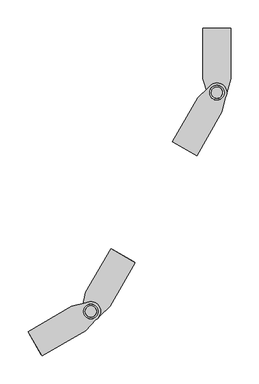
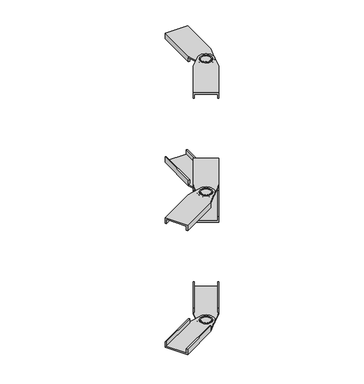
"""IFC4 building model written with IfcOpenShell, lengths in millimetres: cable carrier fitting geometry, BAKS_LD_BEND_Adjustable vertical bend_LPD : LPDP_H45."""

from ifc_helpers import new_model, si_unit, frame, origin, place, context, project, spatial, polyline, circle_curve, source, transform, mapped, element, save
from ifc_brep_helpers import plane_surface, cylinder_surface, revolved_surface, advanced_brep


def cable_carrier_fitting_92366696(model_context):
    return source(origin(), model_context, "Body", "AdvancedBrep", [
        advanced_brep(
        [(-79.1506351, 527.6185103, -153.0), (-34.1506351, 605.5607966, -153.0), (-15.1554446, 623.4614317, -153.0), (15.1554446, 605.9614317, -153.0), (9.1506351, 580.5607966, -153.0), (-35.8493649, 502.6185103, -153.0), (6.5, 625.969762, -153.0), (-6.5, 603.4531015, -153.0), (9.1506351, 580.5607966, -150.0), (15.1554446, 605.9614317, -150.0), (-15.1554446, 623.4614317, -150.0), (-34.1506351, 605.5607966, -150.0), (-31.9855716, 604.3107966, -150.0), (-76.9855716, 526.3685103, -150.0), (-38.0144284, 503.8685103, -150.0), (6.9855716, 581.8107966, -150.0), (-6.5, 603.4531015, -150.0), (6.5, 625.969762, -150.0), (-79.1506351, 527.6185103, -140.0), (-34.1506351, 605.5607966, -140.0), (9.1506351, 580.5607966, -140.0), (-35.8493649, 502.6185103, -140.0), (-38.0144284, 503.8685103, -140.0), (-76.9855716, 526.3685103, -140.0), (6.9855716, 581.8107966, -140.0), (-31.9855716, 604.3107966, -140.0)],
        [
            (0, 1),
            (1, 2),
            (2, 3, circle_curve(frame((0.0, 614.7114317, -153.0), z_axis=(0.0, 0.0, -1.0), x_axis=(-0.49999999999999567, -0.8660254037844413, 0.0)), 17.5)),
            (3, 4),
            (4, 5),
            (5, 0),
            (6, 7, circle_curve(frame((0.0, 614.7114317, -153.0), z_axis=(0.0, 0.0, 1.0), x_axis=(-0.49999999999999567, -0.8660254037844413, 0.0)), 13.0)),
            (7, 6, circle_curve(frame((0.0, 614.7114317, -153.0), z_axis=(0.0, 0.0, 1.0), x_axis=(-0.49999999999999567, -0.8660254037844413, 0.0)), 13.0)),
            (8, 9),
            (9, 10, circle_curve(frame((0.0, 614.7114317, -150.0), z_axis=(0.0, 0.0, 1.0), x_axis=(-0.49999999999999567, -0.8660254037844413, 0.0)), 17.5)),
            (10, 11),
            (11, 12),
            (12, 13),
            (13, 14),
            (14, 15),
            (15, 8),
            (16, 17, circle_curve(frame((0.0, 614.7114317, -150.0), z_axis=(0.0, 0.0, -1.0), x_axis=(-0.49999999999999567, -0.8660254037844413, 0.0)), 13.0)),
            (17, 16, circle_curve(frame((0.0, 614.7114317, -150.0), z_axis=(0.0, 0.0, -1.0), x_axis=(-0.49999999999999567, -0.8660254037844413, 0.0)), 13.0)),
            (0, 18),
            (18, 19),
            (19, 11),
            (11, 1),
            (4, 8),
            (8, 20),
            (20, 21),
            (21, 5),
            (21, 22),
            (22, 14),
            (13, 23),
            (23, 18),
            (6, 17),
            (16, 7),
            (10, 2),
            (9, 3),
            (20, 24),
            (24, 22),
            (24, 15),
            (23, 25),
            (25, 19),
            (25, 12),
        ],
        [
            plane_surface(frame((-34.1506351, 605.5607966, -153.0), z_axis=(0.0, 0.0, -1.0000000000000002), x_axis=(0.49999999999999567, 0.8660254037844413, 0.0))),
            plane_surface(frame((-34.1506351, 605.5607966, -150.0), z_axis=(0.0, 0.0, 1.0000000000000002), x_axis=(-0.49999999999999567, -0.8660254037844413, 0.0))),
            plane_surface(frame((-79.1506351, 527.6185103, -153.0), z_axis=(-0.8660254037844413, 0.49999999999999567, 0.0), x_axis=(0.0, 0.0, 1.0))),
            plane_surface(frame((9.1506351, 580.5607966, -153.0), z_axis=(0.8660254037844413, -0.49999999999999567, 0.0), x_axis=(0.0, 0.0, 1.0))),
            plane_surface(frame((-35.8493649, 502.6185103, -153.0), z_axis=(-0.49999999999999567, -0.8660254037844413, 0.0), x_axis=(0.0, 0.0, 1.0))),
            revolved_surface(polyline([(-6.499999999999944, 603.4531014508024, -153.0), (-6.499999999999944, 603.4531014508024, -150.0)]), (0.0, 614.7114317, -150.0), (0.0, 0.0, -1.0)),
            plane_surface(frame((-34.1506351, 605.5607966, -153.0), z_axis=(-0.685827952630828, 0.7277637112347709, 0.0), x_axis=(0.0, 0.0, 1.0))),
            cylinder_surface(frame((0.0, 614.7114317, -150.0), z_axis=(0.0, 0.0, -1.0), x_axis=(-0.49999999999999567, -0.8660254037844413, 0.0)), 17.5),
            plane_surface(frame((15.1554446, 605.9614317, -153.0), z_axis=(0.9731758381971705, -0.23006257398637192, 0.0), x_axis=(0.0, 0.0, 1.0))),
            plane_surface(frame((6.9855716, 581.8107966, -140.0), z_axis=(0.0, 0.0, 1.0000000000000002), x_axis=(-0.49999999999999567, -0.8660254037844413, 0.0))),
            plane_surface(frame((-38.0144284, 503.8685103, -150.0), z_axis=(-0.8660254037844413, 0.49999999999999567, 0.0), x_axis=(0.0, 0.0, 1.0))),
            plane_surface(frame((6.9855716, 581.8107966, -150.0), z_axis=(0.49999999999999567, 0.8660254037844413, 0.0), x_axis=(0.0, 0.0, 1.0))),
            plane_surface(frame((-34.1506351, 605.5607966, -140.0), z_axis=(0.0, 0.0, 1.0000000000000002), x_axis=(-0.49999999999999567, -0.8660254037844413, 0.0))),
            plane_surface(frame((-34.1506351, 605.5607966, -150.0), z_axis=(0.49999999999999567, 0.8660254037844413, 0.0), x_axis=(0.0, 0.0, 1.0))),
            plane_surface(frame((-31.9855716, 604.3107966, -150.0), z_axis=(0.8660254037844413, -0.49999999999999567, 0.0), x_axis=(0.0, 0.0, 1.0))),
        ],
        [
            (0, [[1, 2, 3, 4, 5, 6], [7, 8]]),
            (1, [[9, 10, 11, 12, 13, 14, 15, 16], [17, 18]]),
            (2, [[-1, 19, 20, 21, 22]]),
            (3, [[-5, 23, 24, 25, 26]]),
            (4, [[-19, -6, -26, 27, 28, -14, 29, 30]]),
            (5, [[31, -17, 32, -7]]),
            (5, [[-31, -8, -32, -18]]),
            (6, [[-2, -22, -11, 33]]),
            (7, [[-3, -33, -10, 34]]),
            (8, [[-4, -34, -9, -23]]),
            (9, [[-27, -25, 35, 36]]),
            (10, [[-36, 37, -15, -28]]),
            (11, [[-35, -24, -16, -37]]),
            (12, [[-30, 38, 39, -20]]),
            (13, [[-39, 40, -12, -21]]),
            (14, [[-38, -29, -13, -40]]),
        ],
    ),
        advanced_brep(
        [(5.0, 623.3716857, -153.0), (-5.0, 606.0511777, -153.0), (-5.0, 606.0511777, -150.0), (5.0, 623.3716857, -150.0)],
        [
            (0, 1, circle_curve(frame((0.0, 614.7114317, -153.0), z_axis=(0.0, 0.0, -1.0), x_axis=(-0.49999999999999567, -0.8660254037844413, 0.0)), 10.0)),
            (1, 0, circle_curve(frame((0.0, 614.7114317, -153.0), z_axis=(0.0, 0.0, -1.0), x_axis=(-0.49999999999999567, -0.8660254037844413, 0.0)), 10.0)),
            (2, 3, circle_curve(frame((0.0, 614.7114317, -150.0), z_axis=(0.0, 0.0, 1.0), x_axis=(-0.49999999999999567, -0.8660254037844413, 0.0)), 10.0)),
            (3, 2, circle_curve(frame((0.0, 614.7114317, -150.0), z_axis=(0.0, 0.0, 1.0), x_axis=(-0.49999999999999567, -0.8660254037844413, 0.0)), 10.0)),
            (0, 3),
            (2, 1),
        ],
        [
            plane_surface(frame((-34.1506351, 605.5607966, -153.0), z_axis=(0.0, 0.0, -1.0000000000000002), x_axis=(0.49999999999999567, 0.8660254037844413, 0.0))),
            plane_surface(frame((-34.1506351, 605.5607966, -150.0), z_axis=(0.0, 0.0, 1.0000000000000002), x_axis=(-0.49999999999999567, -0.8660254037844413, 0.0))),
            cylinder_surface(frame((0.0, 614.7114317, -150.0), z_axis=(0.0, 0.0, 1.0), x_axis=(-0.49999999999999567, -0.8660254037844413, 0.0)), 10.0),
        ],
        [
            (0, [[1, 2]]),
            (1, [[3, 4]]),
            (2, [[5, -3, 6, -1]]),
            (2, [[-5, -2, -6, -4]]),
        ],
    ),
        advanced_brep(
        [(-25.0, 729.7114317, -153.0), (25.0, 729.7114317, -153.0), (25.0, 639.7114317, -153.0), (17.5, 614.7114317, -153.0), (-17.5, 614.7114317, -153.0), (-25.0, 639.7114317, -153.0), (0.0, 601.7114317, -153.0), (0.0, 627.7114317, -153.0), (25.0, 639.7114317, -150.0), (22.5, 639.7114317, -150.0), (22.5, 729.7114317, -150.0), (-22.5, 729.7114317, -150.0), (-22.5, 639.7114317, -150.0), (-25.0, 639.7114317, -150.0), (-17.5, 614.7114317, -150.0), (17.5, 614.7114317, -150.0), (0.0, 627.7114317, -150.0), (0.0, 601.7114317, -150.0), (-25.0, 639.7114317, -140.0), (-25.0, 729.7114317, -140.0), (25.0, 729.7114317, -140.0), (25.0, 639.7114317, -140.0), (-22.5, 729.7114317, -140.0), (22.5, 729.7114317, -140.0), (22.5, 639.7114317, -140.0), (-22.5, 639.7114317, -140.0)],
        [
            (0, 1),
            (1, 2),
            (2, 3),
            (3, 4, circle_curve(frame((0.0, 614.7114317, -153.0), z_axis=(0.0, 0.0, -1.0), x_axis=(0.0, 1.0000000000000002, 0.0)), 17.5)),
            (4, 5),
            (5, 0),
            (6, 7, circle_curve(frame((0.0, 614.7114317, -153.0), z_axis=(0.0, 0.0, 1.0), x_axis=(0.0, 1.0000000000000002, 0.0)), 13.0)),
            (7, 6, circle_curve(frame((0.0, 614.7114317, -153.0), z_axis=(0.0, 0.0, 1.0), x_axis=(0.0, 1.0000000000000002, 0.0)), 13.0)),
            (8, 9),
            (9, 10),
            (10, 11),
            (11, 12),
            (12, 13),
            (13, 14),
            (14, 15, circle_curve(frame((0.0, 614.7114317, -150.0), z_axis=(0.0, 0.0, 1.0), x_axis=(0.0, 1.0000000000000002, 0.0)), 17.5)),
            (15, 8),
            (16, 17, circle_curve(frame((0.0, 614.7114317, -150.0), z_axis=(0.0, 0.0, -1.0), x_axis=(0.0, 1.0000000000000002, 0.0)), 13.0)),
            (17, 16, circle_curve(frame((0.0, 614.7114317, -150.0), z_axis=(0.0, 0.0, -1.0), x_axis=(0.0, 1.0000000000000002, 0.0)), 13.0)),
            (5, 13),
            (13, 18),
            (18, 19),
            (19, 0),
            (1, 20),
            (20, 21),
            (21, 8),
            (8, 2),
            (19, 22),
            (22, 11),
            (10, 23),
            (23, 20),
            (7, 16),
            (17, 6),
            (4, 14),
            (3, 15),
            (23, 24),
            (24, 21),
            (9, 24),
            (18, 25),
            (25, 22),
            (12, 25),
        ],
        [
            plane_surface(frame((-25.0, 639.7114317, -153.0), z_axis=(0.0, 0.0, -1.0), x_axis=(0.0, -1.0, 0.0))),
            plane_surface(frame((-25.0, 639.7114317, -150.0), z_axis=(0.0, 0.0, 1.0), x_axis=(0.0, 1.0, 0.0))),
            plane_surface(frame((-25.0, 729.7114317, -153.0), z_axis=(-1.0, 0.0, 0.0), x_axis=(0.0, 0.0, 1.0))),
            plane_surface(frame((25.0, 639.7114317, -153.0), z_axis=(1.0, 0.0, 0.0), x_axis=(0.0, 0.0, 1.0))),
            plane_surface(frame((25.0, 729.7114317, -153.0), z_axis=(0.0, 1.0, 0.0), x_axis=(0.0, 0.0, 1.0))),
            revolved_surface(polyline([(0.0, 627.7114317, -153.0), (0.0, 627.7114317, -150.0)]), (0.0, 614.7114317, -150.0), (0.0, 0.0, -1.0)),
            plane_surface(frame((-25.0, 639.7114317, -153.0), z_axis=(-0.957826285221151, -0.2873478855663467, 0.0), x_axis=(0.0, 0.0, 1.0))),
            cylinder_surface(frame((0.0, 614.7114317, -150.0), z_axis=(0.0, 0.0, -1.0), x_axis=(0.0, 1.0000000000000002, 0.0)), 17.5),
            plane_surface(frame((17.5, 614.7114317, -153.0), z_axis=(0.9578262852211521, -0.28734788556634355, 0.0), x_axis=(0.0, 0.0, 1.0))),
            plane_surface(frame((22.5, 639.7114317, -140.0), z_axis=(0.0, 0.0, 1.0), x_axis=(0.0, 1.0, 0.0))),
            plane_surface(frame((22.5, 729.7114317, -150.0), z_axis=(-1.0, 0.0, 0.0), x_axis=(0.0, 0.0, 1.0))),
            plane_surface(frame((22.5, 639.7114317, -150.0), z_axis=(0.0, -1.0, 0.0), x_axis=(0.0, 0.0, 1.0))),
            plane_surface(frame((-25.0, 639.7114317, -140.0), z_axis=(0.0, 0.0, 1.0), x_axis=(0.0, 1.0, 0.0))),
            plane_surface(frame((-25.0, 639.7114317, -150.0), z_axis=(0.0, -1.0, 0.0), x_axis=(0.0, 0.0, 1.0))),
            plane_surface(frame((-22.5, 639.7114317, -150.0), z_axis=(1.0, 0.0, 0.0), x_axis=(0.0, 0.0, 1.0))),
        ],
        [
            (0, [[1, 2, 3, 4, 5, 6], [7, 8]]),
            (1, [[9, 10, 11, 12, 13, 14, 15, 16], [17, 18]]),
            (2, [[19, 20, 21, 22, -6]]),
            (3, [[23, 24, 25, 26, -2]]),
            (4, [[27, 28, -11, 29, 30, -23, -1, -22]]),
            (5, [[-8, 31, -18, 32]]),
            (5, [[-17, -31, -7, -32]]),
            (6, [[33, -14, -19, -5]]),
            (7, [[34, -15, -33, -4]]),
            (8, [[-26, -16, -34, -3]]),
            (9, [[35, 36, -24, -30]]),
            (10, [[-29, -10, 37, -35]]),
            (11, [[-37, -9, -25, -36]]),
            (12, [[-21, 38, 39, -27]]),
            (13, [[-20, -13, 40, -38]]),
            (14, [[-40, -12, -28, -39]]),
        ],
    ),
        advanced_brep(
        [(0.0, 604.7114317, -153.0), (0.0, 624.7114317, -153.0), (0.0, 624.7114317, -150.0), (0.0, 604.7114317, -150.0)],
        [
            (0, 1, circle_curve(frame((0.0, 614.7114317, -153.0), z_axis=(0.0, 0.0, -1.0), x_axis=(0.0, 1.0000000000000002, 0.0)), 10.0)),
            (1, 0, circle_curve(frame((0.0, 614.7114317, -153.0), z_axis=(0.0, 0.0, -1.0), x_axis=(0.0, 1.0000000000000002, 0.0)), 10.0)),
            (2, 3, circle_curve(frame((0.0, 614.7114317, -150.0), z_axis=(0.0, 0.0, 1.0), x_axis=(0.0, 1.0000000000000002, 0.0)), 10.0)),
            (3, 2, circle_curve(frame((0.0, 614.7114317, -150.0), z_axis=(0.0, 0.0, 1.0), x_axis=(0.0, 1.0000000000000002, 0.0)), 10.0)),
            (1, 2),
            (3, 0),
        ],
        [
            plane_surface(frame((-25.0, 639.7114317, -153.0), z_axis=(0.0, 0.0, -1.0), x_axis=(0.0, -1.0, 0.0))),
            plane_surface(frame((-25.0, 639.7114317, -150.0), z_axis=(0.0, 0.0, 1.0), x_axis=(0.0, 1.0, 0.0))),
            cylinder_surface(frame((0.0, 614.7114317, -150.0), z_axis=(0.0, 0.0, 1.0), x_axis=(0.0, 1.0000000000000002, 0.0)), 10.0),
        ],
        [
            (0, [[1, 2]]),
            (1, [[3, 4]]),
            (2, [[-2, 5, -4, 6]]),
            (2, [[-3, -5, -1, -6]]),
        ],
    ),
        advanced_brep(
        [(-79.1506351, 527.6185103, 153.0), (-35.8493649, 502.6185103, 153.0), (9.1506351, 580.5607966, 153.0), (15.1554446, 605.9614317, 153.0), (-15.1554446, 623.4614317, 153.0), (-34.1506351, 605.5607966, 153.0), (6.5, 625.969762, 153.0), (-6.5, 603.4531015, 153.0), (9.1506351, 580.5607966, 150.0), (6.9855716, 581.8107966, 150.0), (-38.0144284, 503.8685103, 150.0), (-76.9855716, 526.3685103, 150.0), (-31.9855716, 604.3107966, 150.0), (-34.1506351, 605.5607966, 150.0), (-15.1554446, 623.4614317, 150.0), (15.1554446, 605.9614317, 150.0), (-6.5, 603.4531015, 150.0), (6.5, 625.969762, 150.0), (-34.1506351, 605.5607966, 140.0), (-79.1506351, 527.6185103, 140.0), (-35.8493649, 502.6185103, 140.0), (9.1506351, 580.5607966, 140.0), (-76.9855716, 526.3685103, 140.0), (-38.0144284, 503.8685103, 140.0), (6.9855716, 581.8107966, 140.0), (-31.9855716, 604.3107966, 140.0)],
        [
            (0, 1),
            (1, 2),
            (2, 3),
            (3, 4, circle_curve(frame((0.0, 614.7114317, 153.0), z_axis=(0.0, 0.0, 1.0), x_axis=(-0.4999999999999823, -0.8660254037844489, 0.0)), 17.5)),
            (4, 5),
            (5, 0),
            (6, 7, circle_curve(frame((0.0, 614.7114317, 153.0), z_axis=(0.0, 0.0, -1.0), x_axis=(-0.4999999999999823, -0.8660254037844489, 0.0)), 13.0)),
            (7, 6, circle_curve(frame((0.0, 614.7114317, 153.0), z_axis=(0.0, 0.0, -1.0), x_axis=(-0.4999999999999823, -0.8660254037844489, 0.0)), 13.0)),
            (8, 9),
            (9, 10),
            (10, 11),
            (11, 12),
            (12, 13),
            (13, 14),
            (14, 15, circle_curve(frame((0.0, 614.7114317, 150.0), z_axis=(0.0, 0.0, -1.0), x_axis=(-0.4999999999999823, -0.8660254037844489, 0.0)), 17.5)),
            (15, 8),
            (16, 17, circle_curve(frame((0.0, 614.7114317, 150.0), z_axis=(0.0, 0.0, 1.0), x_axis=(-0.4999999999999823, -0.8660254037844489, 0.0)), 13.0)),
            (17, 16, circle_curve(frame((0.0, 614.7114317, 150.0), z_axis=(0.0, 0.0, 1.0), x_axis=(-0.4999999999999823, -0.8660254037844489, 0.0)), 13.0)),
            (5, 13),
            (13, 18),
            (18, 19),
            (19, 0),
            (1, 20),
            (20, 21),
            (21, 8),
            (8, 2),
            (19, 22),
            (22, 11),
            (10, 23),
            (23, 20),
            (7, 16),
            (17, 6),
            (4, 14),
            (3, 15),
            (23, 24),
            (24, 21),
            (9, 24),
            (18, 25),
            (25, 22),
            (12, 25),
        ],
        [
            plane_surface(frame((-34.1506351, 605.5607966, 153.0), z_axis=(0.0, 0.0, 1.0), x_axis=(0.4999999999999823, 0.8660254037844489, 0.0))),
            plane_surface(frame((-34.1506351, 605.5607966, 150.0), z_axis=(0.0, 0.0, -1.0), x_axis=(-0.4999999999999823, -0.8660254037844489, 0.0))),
            plane_surface(frame((-79.1506351, 527.6185103, 153.0), z_axis=(-0.8660254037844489, 0.4999999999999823, 0.0), x_axis=(0.0, 0.0, -1.0))),
            plane_surface(frame((9.1506351, 580.5607966, 153.0), z_axis=(0.8660254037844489, -0.4999999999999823, 0.0), x_axis=(0.0, 0.0, -1.0))),
            plane_surface(frame((-35.8493649, 502.6185103, 153.0), z_axis=(-0.4999999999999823, -0.8660254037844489, 0.0), x_axis=(0.0, 0.0, -1.0))),
            revolved_surface(polyline([(-6.49999999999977, 603.4531014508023, 153.0), (-6.49999999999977, 603.4531014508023, 150.0)]), (0.0, 614.7114317, 150.0), (0.0, 0.0, 1.0)),
            plane_surface(frame((-34.1506351, 605.5607966, 153.0), z_axis=(-0.6858279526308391, 0.7277637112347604, 0.0), x_axis=(0.0, 0.0, -1.0))),
            cylinder_surface(frame((0.0, 614.7114317, 150.0), z_axis=(0.0, 0.0, 1.0), x_axis=(-0.4999999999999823, -0.8660254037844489, 0.0)), 17.5),
            plane_surface(frame((15.1554446, 605.9614317, 153.0), z_axis=(0.973175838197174, -0.2300625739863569, 0.0), x_axis=(0.0, 0.0, -1.0))),
            plane_surface(frame((6.9855716, 581.8107966, 140.0), z_axis=(0.0, 0.0, -1.0), x_axis=(-0.4999999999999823, -0.8660254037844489, 0.0))),
            plane_surface(frame((-38.0144284, 503.8685103, 150.0), z_axis=(-0.8660254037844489, 0.4999999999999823, 0.0), x_axis=(0.0, 0.0, -1.0))),
            plane_surface(frame((6.9855716, 581.8107966, 150.0), z_axis=(0.4999999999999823, 0.8660254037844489, 0.0), x_axis=(0.0, 0.0, -1.0))),
            plane_surface(frame((-34.1506351, 605.5607966, 140.0), z_axis=(0.0, 0.0, -1.0), x_axis=(-0.4999999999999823, -0.8660254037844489, 0.0))),
            plane_surface(frame((-34.1506351, 605.5607966, 150.0), z_axis=(0.4999999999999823, 0.8660254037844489, 0.0), x_axis=(0.0, 0.0, -1.0))),
            plane_surface(frame((-31.9855716, 604.3107966, 150.0), z_axis=(0.8660254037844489, -0.4999999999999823, 0.0), x_axis=(0.0, 0.0, -1.0))),
        ],
        [
            (0, [[1, 2, 3, 4, 5, 6], [7, 8]]),
            (1, [[9, 10, 11, 12, 13, 14, 15, 16], [17, 18]]),
            (2, [[19, 20, 21, 22, -6]]),
            (3, [[23, 24, 25, 26, -2]]),
            (4, [[27, 28, -11, 29, 30, -23, -1, -22]]),
            (5, [[-8, 31, -18, 32]]),
            (5, [[-17, -31, -7, -32]]),
            (6, [[33, -14, -19, -5]]),
            (7, [[34, -15, -33, -4]]),
            (8, [[-26, -16, -34, -3]]),
            (9, [[35, 36, -24, -30]]),
            (10, [[-29, -10, 37, -35]]),
            (11, [[-37, -9, -25, -36]]),
            (12, [[-21, 38, 39, -27]]),
            (13, [[-20, -13, 40, -38]]),
            (14, [[-40, -12, -28, -39]]),
        ],
    ),
        advanced_brep(
        [(5.0, 623.3716857, 153.0), (-5.0, 606.0511777, 153.0), (-5.0, 606.0511777, 150.0), (5.0, 623.3716857, 150.0)],
        [
            (0, 1, circle_curve(frame((0.0, 614.7114317, 153.0), z_axis=(0.0, 0.0, 1.0), x_axis=(-0.4999999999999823, -0.8660254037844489, 0.0)), 10.0)),
            (1, 0, circle_curve(frame((0.0, 614.7114317, 153.0), z_axis=(0.0, 0.0, 1.0), x_axis=(-0.4999999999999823, -0.8660254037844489, 0.0)), 10.0)),
            (2, 3, circle_curve(frame((0.0, 614.7114317, 150.0), z_axis=(0.0, 0.0, -1.0), x_axis=(-0.4999999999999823, -0.8660254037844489, 0.0)), 10.0)),
            (3, 2, circle_curve(frame((0.0, 614.7114317, 150.0), z_axis=(0.0, 0.0, -1.0), x_axis=(-0.4999999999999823, -0.8660254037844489, 0.0)), 10.0)),
            (1, 2),
            (3, 0),
        ],
        [
            plane_surface(frame((-34.1506351, 605.5607966, 153.0), z_axis=(0.0, 0.0, 1.0), x_axis=(0.4999999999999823, 0.8660254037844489, 0.0))),
            plane_surface(frame((-34.1506351, 605.5607966, 150.0), z_axis=(0.0, 0.0, -1.0), x_axis=(-0.4999999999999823, -0.8660254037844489, 0.0))),
            cylinder_surface(frame((0.0, 614.7114317, 150.0), z_axis=(0.0, 0.0, -1.0), x_axis=(-0.4999999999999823, -0.8660254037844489, 0.0)), 10.0),
        ],
        [
            (0, [[1, 2]]),
            (1, [[3, 4]]),
            (2, [[-2, 5, -4, 6]]),
            (2, [[-3, -5, -1, -6]]),
        ],
    ),
        advanced_brep(
        [(-25.0, 729.7114317, 153.0), (-25.0, 639.7114317, 153.0), (-17.5, 614.7114317, 153.0), (17.5, 614.7114317, 153.0), (25.0, 639.7114317, 153.0), (25.0, 729.7114317, 153.0), (0.0, 601.7114317, 153.0), (0.0, 627.7114317, 153.0), (25.0, 639.7114317, 150.0), (17.5, 614.7114317, 150.0), (-17.5, 614.7114317, 150.0), (-25.0, 639.7114317, 150.0), (-22.5, 639.7114317, 150.0), (-22.5, 729.7114317, 150.0), (22.5, 729.7114317, 150.0), (22.5, 639.7114317, 150.0), (0.0, 627.7114317, 150.0), (0.0, 601.7114317, 150.0), (-25.0, 729.7114317, 140.0), (-25.0, 639.7114317, 140.0), (25.0, 639.7114317, 140.0), (25.0, 729.7114317, 140.0), (22.5, 729.7114317, 140.0), (-22.5, 729.7114317, 140.0), (22.5, 639.7114317, 140.0), (-22.5, 639.7114317, 140.0)],
        [
            (0, 1),
            (1, 2),
            (2, 3, circle_curve(frame((0.0, 614.7114317, 153.0), z_axis=(0.0, 0.0, 1.0), x_axis=(0.0, 1.0, 0.0)), 17.5)),
            (3, 4),
            (4, 5),
            (5, 0),
            (6, 7, circle_curve(frame((0.0, 614.7114317, 153.0), z_axis=(0.0, 0.0, -1.0), x_axis=(0.0, 1.0, 0.0)), 13.0)),
            (7, 6, circle_curve(frame((0.0, 614.7114317, 153.0), z_axis=(0.0, 0.0, -1.0), x_axis=(0.0, 1.0, 0.0)), 13.0)),
            (8, 9),
            (9, 10, circle_curve(frame((0.0, 614.7114317, 150.0), z_axis=(0.0, 0.0, -1.0), x_axis=(0.0, 1.0, 0.0)), 17.5)),
            (10, 11),
            (11, 12),
            (12, 13),
            (13, 14),
            (14, 15),
            (15, 8),
            (16, 17, circle_curve(frame((0.0, 614.7114317, 150.0), z_axis=(0.0, 0.0, 1.0), x_axis=(0.0, 1.0, 0.0)), 13.0)),
            (17, 16, circle_curve(frame((0.0, 614.7114317, 150.0), z_axis=(0.0, 0.0, 1.0), x_axis=(0.0, 1.0, 0.0)), 13.0)),
            (0, 18),
            (18, 19),
            (19, 11),
            (11, 1),
            (4, 8),
            (8, 20),
            (20, 21),
            (21, 5),
            (21, 22),
            (22, 14),
            (13, 23),
            (23, 18),
            (6, 17),
            (16, 7),
            (10, 2),
            (9, 3),
            (20, 24),
            (24, 22),
            (24, 15),
            (23, 25),
            (25, 19),
            (25, 12),
        ],
        [
            plane_surface(frame((-25.0, 639.7114317, 153.0), z_axis=(0.0, 0.0, 1.0), x_axis=(0.0, -1.0, 0.0))),
            plane_surface(frame((-25.0, 639.7114317, 150.0), z_axis=(0.0, 0.0, -1.0), x_axis=(0.0, 1.0, 0.0))),
            plane_surface(frame((-25.0, 729.7114317, 153.0), z_axis=(-1.0, 0.0, 0.0), x_axis=(0.0, 0.0, -1.0))),
            plane_surface(frame((25.0, 639.7114317, 153.0), z_axis=(1.0, 0.0, 0.0), x_axis=(0.0, 0.0, -1.0))),
            plane_surface(frame((25.0, 729.7114317, 153.0), z_axis=(0.0, 1.0, 0.0), x_axis=(0.0, 0.0, -1.0))),
            revolved_surface(polyline([(0.0, 627.7114317, 153.0), (0.0, 627.7114317, 150.0)]), (0.0, 614.7114317, 150.0), (0.0, 0.0, 1.0)),
            plane_surface(frame((-25.0, 639.7114317, 153.0), z_axis=(-0.9578262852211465, -0.2873478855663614, 0.0), x_axis=(0.0, 0.0, -1.0))),
            cylinder_surface(frame((0.0, 614.7114317, 150.0), z_axis=(0.0, 0.0, 1.0), x_axis=(0.0, 1.0, 0.0)), 17.5),
            plane_surface(frame((17.5, 614.7114317, 153.0), z_axis=(0.9578262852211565, -0.28734788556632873, 0.0), x_axis=(0.0, 0.0, -1.0))),
            plane_surface(frame((22.5, 639.7114317, 140.0), z_axis=(0.0, 0.0, -1.0), x_axis=(0.0, 1.0, 0.0))),
            plane_surface(frame((22.5, 729.7114317, 150.0), z_axis=(-1.0, 0.0, 0.0), x_axis=(0.0, 0.0, -1.0))),
            plane_surface(frame((22.5, 639.7114317, 150.0), z_axis=(0.0, -1.0, 0.0), x_axis=(0.0, 0.0, -1.0))),
            plane_surface(frame((-25.0, 639.7114317, 140.0), z_axis=(0.0, 0.0, -1.0), x_axis=(0.0, 1.0, 0.0))),
            plane_surface(frame((-25.0, 639.7114317, 150.0), z_axis=(0.0, -1.0, 0.0), x_axis=(0.0, 0.0, -1.0))),
            plane_surface(frame((-22.5, 639.7114317, 150.0), z_axis=(1.0, 0.0, 0.0), x_axis=(0.0, 0.0, -1.0))),
        ],
        [
            (0, [[1, 2, 3, 4, 5, 6], [7, 8]]),
            (1, [[9, 10, 11, 12, 13, 14, 15, 16], [17, 18]]),
            (2, [[-1, 19, 20, 21, 22]]),
            (3, [[-5, 23, 24, 25, 26]]),
            (4, [[-19, -6, -26, 27, 28, -14, 29, 30]]),
            (5, [[31, -17, 32, -7]]),
            (5, [[-31, -8, -32, -18]]),
            (6, [[-2, -22, -11, 33]]),
            (7, [[-3, -33, -10, 34]]),
            (8, [[-4, -34, -9, -23]]),
            (9, [[-27, -25, 35, 36]]),
            (10, [[-36, 37, -15, -28]]),
            (11, [[-35, -24, -16, -37]]),
            (12, [[-30, 38, 39, -20]]),
            (13, [[-39, 40, -12, -21]]),
            (14, [[-38, -29, -13, -40]]),
        ],
    ),
        advanced_brep(
        [(0.0, 604.7114317, 153.0), (0.0, 624.7114317, 153.0), (0.0, 624.7114317, 150.0), (0.0, 604.7114317, 150.0)],
        [
            (0, 1, circle_curve(frame((0.0, 614.7114317, 153.0), z_axis=(0.0, 0.0, 1.0), x_axis=(0.0, 1.0, 0.0)), 10.0)),
            (1, 0, circle_curve(frame((0.0, 614.7114317, 153.0), z_axis=(0.0, 0.0, 1.0), x_axis=(0.0, 1.0, 0.0)), 10.0)),
            (2, 3, circle_curve(frame((0.0, 614.7114317, 150.0), z_axis=(0.0, 0.0, -1.0), x_axis=(0.0, 1.0, 0.0)), 10.0)),
            (3, 2, circle_curve(frame((0.0, 614.7114317, 150.0), z_axis=(0.0, 0.0, -1.0), x_axis=(0.0, 1.0, 0.0)), 10.0)),
            (0, 3),
            (2, 1),
        ],
        [
            plane_surface(frame((-25.0, 639.7114317, 153.0), z_axis=(0.0, 0.0, 1.0), x_axis=(0.0, -1.0, 0.0))),
            plane_surface(frame((-25.0, 639.7114317, 150.0), z_axis=(0.0, 0.0, -1.0), x_axis=(0.0, 1.0, 0.0))),
            cylinder_surface(frame((0.0, 614.7114317, 150.0), z_axis=(0.0, 0.0, -1.0), x_axis=(0.0, 1.0, 0.0)), 10.0),
        ],
        [
            (0, [[1, 2]]),
            (1, [[3, 4]]),
            (2, [[5, -3, 6, -1]]),
            (2, [[-5, -2, -6, -4]]),
        ],
    ),
        advanced_brep(
        [(-337.0929214, 189.1506351, -153.0), (-259.1506351, 234.1506351, -153.0), (-233.75, 240.1554446, -153.0), (-216.25, 209.8445554, -153.0), (-234.1506351, 190.8493649, -153.0), (-312.0929214, 145.8493649, -153.0), (-213.7416698, 231.5, -153.0), (-236.2583302, 218.5, -153.0), (-234.1506351, 190.8493649, -150.0), (-216.25, 209.8445554, -150.0), (-233.75, 240.1554446, -150.0), (-259.1506351, 234.1506351, -150.0), (-257.9006351, 231.9855716, -150.0), (-335.8429214, 186.9855716, -150.0), (-313.3429214, 148.0144284, -150.0), (-235.4006351, 193.0144284, -150.0), (-236.2583302, 218.5, -150.0), (-213.7416698, 231.5, -150.0), (-337.0929214, 189.1506351, -140.0), (-259.1506351, 234.1506351, -140.0), (-234.1506351, 190.8493649, -140.0), (-312.0929214, 145.8493649, -140.0), (-313.3429214, 148.0144284, -140.0), (-335.8429214, 186.9855716, -140.0), (-235.4006351, 193.0144284, -140.0), (-257.9006351, 231.9855716, -140.0)],
        [
            (0, 1),
            (1, 2),
            (2, 3, circle_curve(frame((-225.0, 225.0, -153.0), z_axis=(0.0, 0.0, -1.0), x_axis=(-0.8660254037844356, -0.5000000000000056, 0.0)), 17.5)),
            (3, 4),
            (4, 5),
            (5, 0),
            (6, 7, circle_curve(frame((-225.0, 225.0, -153.0), z_axis=(0.0, 0.0, 1.0), x_axis=(-0.8660254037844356, -0.5000000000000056, 0.0)), 13.0)),
            (7, 6, circle_curve(frame((-225.0, 225.0, -153.0), z_axis=(0.0, 0.0, 1.0), x_axis=(-0.8660254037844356, -0.5000000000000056, 0.0)), 13.0)),
            (8, 9),
            (9, 10, circle_curve(frame((-225.0, 225.0, -150.0), z_axis=(0.0, 0.0, 1.0), x_axis=(-0.8660254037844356, -0.5000000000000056, 0.0)), 17.5)),
            (10, 11),
            (11, 12),
            (12, 13),
            (13, 14),
            (14, 15),
            (15, 8),
            (16, 17, circle_curve(frame((-225.0, 225.0, -150.0), z_axis=(0.0, 0.0, -1.0), x_axis=(-0.8660254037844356, -0.5000000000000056, 0.0)), 13.0)),
            (17, 16, circle_curve(frame((-225.0, 225.0, -150.0), z_axis=(0.0, 0.0, -1.0), x_axis=(-0.8660254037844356, -0.5000000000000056, 0.0)), 13.0)),
            (0, 18),
            (18, 19),
            (19, 11),
            (11, 1),
            (4, 8),
            (8, 20),
            (20, 21),
            (21, 5),
            (21, 22),
            (22, 14),
            (13, 23),
            (23, 18),
            (6, 17),
            (16, 7),
            (10, 2),
            (9, 3),
            (20, 24),
            (24, 22),
            (24, 15),
            (23, 25),
            (25, 19),
            (25, 12),
        ],
        [
            plane_surface(frame((-259.1506351, 234.1506351, -153.0), z_axis=(0.0, 0.0, -1.0000000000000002), x_axis=(0.8660254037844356, 0.5000000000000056, 0.0))),
            plane_surface(frame((-259.1506351, 234.1506351, -150.0), z_axis=(0.0, 0.0, 1.0000000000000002), x_axis=(-0.8660254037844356, -0.5000000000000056, 0.0))),
            plane_surface(frame((-337.0929214, 189.1506351, -153.0), z_axis=(-0.5000000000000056, 0.8660254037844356, 0.0), x_axis=(0.0, 0.0, 1.0))),
            plane_surface(frame((-234.1506351, 190.8493649, -153.0), z_axis=(0.5000000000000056, -0.8660254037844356, 0.0), x_axis=(0.0, 0.0, 1.0))),
            plane_surface(frame((-312.0929214, 145.8493649, -153.0), z_axis=(-0.8660254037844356, -0.5000000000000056, 0.0), x_axis=(0.0, 0.0, 1.0))),
            revolved_surface(polyline([(-236.25833024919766, 218.49999999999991, -153.0), (-236.25833024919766, 218.49999999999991, -150.0)]), (-225.0, 225.0, -150.0), (0.0, 0.0, -1.0)),
            plane_surface(frame((-259.1506351, 234.1506351, -153.0), z_axis=(-0.23006257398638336, 0.9731758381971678, 0.0), x_axis=(0.0, 0.0, 1.0))),
            cylinder_surface(frame((-225.0, 225.0, -150.0), z_axis=(0.0, 0.0, -1.0), x_axis=(-0.8660254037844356, -0.5000000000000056, 0.0)), 17.5),
            plane_surface(frame((-216.25, 209.8445554, -153.0), z_axis=(0.727763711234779, -0.6858279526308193, 0.0), x_axis=(0.0, 0.0, 1.0))),
            plane_surface(frame((-235.4006351, 193.0144284, -140.0), z_axis=(0.0, 0.0, 1.0000000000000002), x_axis=(-0.8660254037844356, -0.5000000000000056, 0.0))),
            plane_surface(frame((-313.3429214, 148.0144284, -150.0), z_axis=(-0.5000000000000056, 0.8660254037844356, 0.0), x_axis=(0.0, 0.0, 1.0))),
            plane_surface(frame((-235.4006351, 193.0144284, -150.0), z_axis=(0.8660254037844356, 0.5000000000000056, 0.0), x_axis=(0.0, 0.0, 1.0))),
            plane_surface(frame((-259.1506351, 234.1506351, -140.0), z_axis=(0.0, 0.0, 1.0000000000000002), x_axis=(-0.8660254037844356, -0.5000000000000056, 0.0))),
            plane_surface(frame((-259.1506351, 234.1506351, -150.0), z_axis=(0.8660254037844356, 0.5000000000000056, 0.0), x_axis=(0.0, 0.0, 1.0))),
            plane_surface(frame((-257.9006351, 231.9855716, -150.0), z_axis=(0.5000000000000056, -0.8660254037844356, 0.0), x_axis=(0.0, 0.0, 1.0))),
        ],
        [
            (0, [[1, 2, 3, 4, 5, 6], [7, 8]]),
            (1, [[9, 10, 11, 12, 13, 14, 15, 16], [17, 18]]),
            (2, [[-1, 19, 20, 21, 22]]),
            (3, [[-5, 23, 24, 25, 26]]),
            (4, [[-19, -6, -26, 27, 28, -14, 29, 30]]),
            (5, [[31, -17, 32, -7]]),
            (5, [[-31, -8, -32, -18]]),
            (6, [[-2, -22, -11, 33]]),
            (7, [[-3, -33, -10, 34]]),
            (8, [[-4, -34, -9, -23]]),
            (9, [[-27, -25, 35, 36]]),
            (10, [[-36, 37, -15, -28]]),
            (11, [[-35, -24, -16, -37]]),
            (12, [[-30, 38, 39, -20]]),
            (13, [[-39, 40, -12, -21]]),
            (14, [[-38, -29, -13, -40]]),
        ],
    ),
        advanced_brep(
        [(-216.339746, 230.0, -153.0), (-233.660254, 220.0, -153.0), (-233.660254, 220.0, -150.0), (-216.339746, 230.0, -150.0)],
        [
            (0, 1, circle_curve(frame((-225.0, 225.0, -153.0), z_axis=(0.0, 0.0, -1.0), x_axis=(-0.8660254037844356, -0.5000000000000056, 0.0)), 10.0)),
            (1, 0, circle_curve(frame((-225.0, 225.0, -153.0), z_axis=(0.0, 0.0, -1.0), x_axis=(-0.8660254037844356, -0.5000000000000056, 0.0)), 10.0)),
            (2, 3, circle_curve(frame((-225.0, 225.0, -150.0), z_axis=(0.0, 0.0, 1.0), x_axis=(-0.8660254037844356, -0.5000000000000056, 0.0)), 10.0)),
            (3, 2, circle_curve(frame((-225.0, 225.0, -150.0), z_axis=(0.0, 0.0, 1.0), x_axis=(-0.8660254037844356, -0.5000000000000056, 0.0)), 10.0)),
            (0, 3),
            (2, 1),
        ],
        [
            plane_surface(frame((-259.1506351, 234.1506351, -153.0), z_axis=(0.0, 0.0, -1.0000000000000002), x_axis=(0.8660254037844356, 0.5000000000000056, 0.0))),
            plane_surface(frame((-259.1506351, 234.1506351, -150.0), z_axis=(0.0, 0.0, 1.0000000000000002), x_axis=(-0.8660254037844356, -0.5000000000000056, 0.0))),
            cylinder_surface(frame((-225.0, 225.0, -150.0), z_axis=(0.0, 0.0, 1.0), x_axis=(-0.8660254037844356, -0.5000000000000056, 0.0)), 10.0),
        ],
        [
            (0, [[1, 2]]),
            (1, [[3, 4]]),
            (2, [[5, -3, 6, -1]]),
            (2, [[-5, -2, -6, -4]]),
        ],
    ),
        advanced_brep(
        [(-189.1506351, 337.0929214, -153.0), (-145.8493649, 312.0929214, -153.0), (-190.8493649, 234.1506351, -153.0), (-209.8445554, 216.25, -153.0), (-240.1554446, 233.75, -153.0), (-234.1506351, 259.1506351, -153.0), (-231.5, 213.7416698, -153.0), (-218.5, 236.2583302, -153.0), (-190.8493649, 234.1506351, -150.0), (-193.0144284, 235.4006351, -150.0), (-148.0144284, 313.3429214, -150.0), (-186.9855716, 335.8429214, -150.0), (-231.9855716, 257.9006351, -150.0), (-234.1506351, 259.1506351, -150.0), (-240.1554446, 233.75, -150.0), (-209.8445554, 216.25, -150.0), (-218.5, 236.2583302, -150.0), (-231.5, 213.7416698, -150.0), (-234.1506351, 259.1506351, -140.0), (-189.1506351, 337.0929214, -140.0), (-145.8493649, 312.0929214, -140.0), (-190.8493649, 234.1506351, -140.0), (-186.9855716, 335.8429214, -140.0), (-148.0144284, 313.3429214, -140.0), (-193.0144284, 235.4006351, -140.0), (-231.9855716, 257.9006351, -140.0)],
        [
            (0, 1),
            (1, 2),
            (2, 3),
            (3, 4, circle_curve(frame((-225.0, 225.0, -153.0), z_axis=(0.0, 0.0, -1.0), x_axis=(0.49999999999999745, 0.8660254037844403, 0.0)), 17.5)),
            (4, 5),
            (5, 0),
            (6, 7, circle_curve(frame((-225.0, 225.0, -153.0), z_axis=(0.0, 0.0, 1.0), x_axis=(0.49999999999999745, 0.8660254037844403, 0.0)), 13.0)),
            (7, 6, circle_curve(frame((-225.0, 225.0, -153.0), z_axis=(0.0, 0.0, 1.0), x_axis=(0.49999999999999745, 0.8660254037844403, 0.0)), 13.0)),
            (8, 9),
            (9, 10),
            (10, 11),
            (11, 12),
            (12, 13),
            (13, 14),
            (14, 15, circle_curve(frame((-225.0, 225.0, -150.0), z_axis=(0.0, 0.0, 1.0), x_axis=(0.49999999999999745, 0.8660254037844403, 0.0)), 17.5)),
            (15, 8),
            (16, 17, circle_curve(frame((-225.0, 225.0, -150.0), z_axis=(0.0, 0.0, -1.0), x_axis=(0.49999999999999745, 0.8660254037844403, 0.0)), 13.0)),
            (17, 16, circle_curve(frame((-225.0, 225.0, -150.0), z_axis=(0.0, 0.0, -1.0), x_axis=(0.49999999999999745, 0.8660254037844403, 0.0)), 13.0)),
            (5, 13),
            (13, 18),
            (18, 19),
            (19, 0),
            (1, 20),
            (20, 21),
            (21, 8),
            (8, 2),
            (19, 22),
            (22, 11),
            (10, 23),
            (23, 20),
            (7, 16),
            (17, 6),
            (4, 14),
            (3, 15),
            (23, 24),
            (24, 21),
            (9, 24),
            (18, 25),
            (25, 22),
            (12, 25),
        ],
        [
            plane_surface(frame((-234.1506351, 259.1506351, -153.0), z_axis=(0.0, 0.0, -1.0000000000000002), x_axis=(-0.49999999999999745, -0.8660254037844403, 0.0))),
            plane_surface(frame((-234.1506351, 259.1506351, -150.0), z_axis=(0.0, 0.0, 1.0000000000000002), x_axis=(0.49999999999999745, 0.8660254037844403, 0.0))),
            plane_surface(frame((-189.1506351, 337.0929214, -153.0), z_axis=(-0.8660254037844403, 0.49999999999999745, 0.0), x_axis=(0.0, 0.0, 1.0))),
            plane_surface(frame((-190.8493649, 234.1506351, -153.0), z_axis=(0.8660254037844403, -0.49999999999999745, 0.0), x_axis=(0.0, 0.0, 1.0))),
            plane_surface(frame((-145.8493649, 312.0929214, -153.0), z_axis=(0.49999999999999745, 0.8660254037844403, 0.0), x_axis=(0.0, 0.0, 1.0))),
            revolved_surface(polyline([(-218.50000000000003, 236.2583302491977, -153.0), (-218.50000000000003, 236.2583302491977, -150.0)]), (-225.0, 225.0, -150.0), (0.0, 0.0, -1.0)),
            plane_surface(frame((-234.1506351, 259.1506351, -153.0), z_axis=(-0.9731758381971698, 0.23006257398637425, 0.0), x_axis=(0.0, 0.0, 1.0))),
            cylinder_surface(frame((-225.0, 225.0, -150.0), z_axis=(0.0, 0.0, -1.0), x_axis=(0.49999999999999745, 0.8660254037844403, 0.0)), 17.5),
            plane_surface(frame((-209.8445554, 216.25, -153.0), z_axis=(0.6858279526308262, -0.7277637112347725, 0.0), x_axis=(0.0, 0.0, 1.0))),
            plane_surface(frame((-193.0144284, 235.4006351, -140.0), z_axis=(0.0, 0.0, 1.0000000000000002), x_axis=(0.49999999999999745, 0.8660254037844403, 0.0))),
            plane_surface(frame((-148.0144284, 313.3429214, -150.0), z_axis=(-0.8660254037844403, 0.49999999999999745, 0.0), x_axis=(0.0, 0.0, 1.0))),
            plane_surface(frame((-193.0144284, 235.4006351, -150.0), z_axis=(-0.49999999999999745, -0.8660254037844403, 0.0), x_axis=(0.0, 0.0, 1.0))),
            plane_surface(frame((-234.1506351, 259.1506351, -140.0), z_axis=(0.0, 0.0, 1.0000000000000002), x_axis=(0.49999999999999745, 0.8660254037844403, 0.0))),
            plane_surface(frame((-234.1506351, 259.1506351, -150.0), z_axis=(-0.49999999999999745, -0.8660254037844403, 0.0), x_axis=(0.0, 0.0, 1.0))),
            plane_surface(frame((-231.9855716, 257.9006351, -150.0), z_axis=(0.8660254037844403, -0.49999999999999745, 0.0), x_axis=(0.0, 0.0, 1.0))),
        ],
        [
            (0, [[1, 2, 3, 4, 5, 6], [7, 8]]),
            (1, [[9, 10, 11, 12, 13, 14, 15, 16], [17, 18]]),
            (2, [[19, 20, 21, 22, -6]]),
            (3, [[23, 24, 25, 26, -2]]),
            (4, [[27, 28, -11, 29, 30, -23, -1, -22]]),
            (5, [[-8, 31, -18, 32]]),
            (5, [[-17, -31, -7, -32]]),
            (6, [[33, -14, -19, -5]]),
            (7, [[34, -15, -33, -4]]),
            (8, [[-26, -16, -34, -3]]),
            (9, [[35, 36, -24, -30]]),
            (10, [[-29, -10, 37, -35]]),
            (11, [[-37, -9, -25, -36]]),
            (12, [[-21, 38, 39, -27]]),
            (13, [[-20, -13, 40, -38]]),
            (14, [[-40, -12, -28, -39]]),
        ],
    ),
        advanced_brep(
        [(-230.0, 216.339746, -153.0), (-220.0, 233.660254, -153.0), (-220.0, 233.660254, -150.0), (-230.0, 216.339746, -150.0)],
        [
            (0, 1, circle_curve(frame((-225.0, 225.0, -153.0), z_axis=(0.0, 0.0, -1.0), x_axis=(0.49999999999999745, 0.8660254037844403, 0.0)), 10.0)),
            (1, 0, circle_curve(frame((-225.0, 225.0, -153.0), z_axis=(0.0, 0.0, -1.0), x_axis=(0.49999999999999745, 0.8660254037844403, 0.0)), 10.0)),
            (2, 3, circle_curve(frame((-225.0, 225.0, -150.0), z_axis=(0.0, 0.0, 1.0), x_axis=(0.49999999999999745, 0.8660254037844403, 0.0)), 10.0)),
            (3, 2, circle_curve(frame((-225.0, 225.0, -150.0), z_axis=(0.0, 0.0, 1.0), x_axis=(0.49999999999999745, 0.8660254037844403, 0.0)), 10.0)),
            (1, 2),
            (3, 0),
        ],
        [
            plane_surface(frame((-234.1506351, 259.1506351, -153.0), z_axis=(0.0, 0.0, -1.0000000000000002), x_axis=(-0.49999999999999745, -0.8660254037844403, 0.0))),
            plane_surface(frame((-234.1506351, 259.1506351, -150.0), z_axis=(0.0, 0.0, 1.0000000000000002), x_axis=(0.49999999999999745, 0.8660254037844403, 0.0))),
            cylinder_surface(frame((-225.0, 225.0, -150.0), z_axis=(0.0, 0.0, 1.0), x_axis=(0.49999999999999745, 0.8660254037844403, 0.0)), 10.0),
        ],
        [
            (0, [[1, 2]]),
            (1, [[3, 4]]),
            (2, [[-2, 5, -4, 6]]),
            (2, [[-3, -5, -1, -6]]),
        ],
    ),
        advanced_brep(
        [(-337.0929214, 189.1506351, 153.0), (-312.0929214, 145.8493649, 153.0), (-234.1506351, 190.8493649, 153.0), (-216.25, 209.8445554, 153.0), (-233.75, 240.1554446, 153.0), (-259.1506351, 234.1506351, 153.0), (-213.7416698, 231.5, 153.0), (-236.2583302, 218.5, 153.0), (-234.1506351, 190.8493649, 150.0), (-235.4006351, 193.0144284, 150.0), (-313.3429214, 148.0144284, 150.0), (-335.8429214, 186.9855716, 150.0), (-257.9006351, 231.9855716, 150.0), (-259.1506351, 234.1506351, 150.0), (-233.75, 240.1554446, 150.0), (-216.25, 209.8445554, 150.0), (-236.2583302, 218.5, 150.0), (-213.7416698, 231.5, 150.0), (-259.1506351, 234.1506351, 140.0), (-337.0929214, 189.1506351, 140.0), (-312.0929214, 145.8493649, 140.0), (-234.1506351, 190.8493649, 140.0), (-335.8429214, 186.9855716, 140.0), (-313.3429214, 148.0144284, 140.0), (-235.4006351, 193.0144284, 140.0), (-257.9006351, 231.9855716, 140.0)],
        [
            (0, 1),
            (1, 2),
            (2, 3),
            (3, 4, circle_curve(frame((-225.0, 225.0, 153.0), z_axis=(0.0, 0.0, 1.0), x_axis=(-0.8660254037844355, -0.5000000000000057, 0.0)), 17.5)),
            (4, 5),
            (5, 0),
            (6, 7, circle_curve(frame((-225.0, 225.0, 153.0), z_axis=(0.0, 0.0, -1.0), x_axis=(-0.8660254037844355, -0.5000000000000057, 0.0)), 13.0)),
            (7, 6, circle_curve(frame((-225.0, 225.0, 153.0), z_axis=(0.0, 0.0, -1.0), x_axis=(-0.8660254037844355, -0.5000000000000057, 0.0)), 13.0)),
            (8, 9),
            (9, 10),
            (10, 11),
            (11, 12),
            (12, 13),
            (13, 14),
            (14, 15, circle_curve(frame((-225.0, 225.0, 150.0), z_axis=(0.0, 0.0, -1.0), x_axis=(-0.8660254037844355, -0.5000000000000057, 0.0)), 17.5)),
            (15, 8),
            (16, 17, circle_curve(frame((-225.0, 225.0, 150.0), z_axis=(0.0, 0.0, 1.0), x_axis=(-0.8660254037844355, -0.5000000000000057, 0.0)), 13.0)),
            (17, 16, circle_curve(frame((-225.0, 225.0, 150.0), z_axis=(0.0, 0.0, 1.0), x_axis=(-0.8660254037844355, -0.5000000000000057, 0.0)), 13.0)),
            (5, 13),
            (13, 18),
            (18, 19),
            (19, 0),
            (1, 20),
            (20, 21),
            (21, 8),
            (8, 2),
            (19, 22),
            (22, 11),
            (10, 23),
            (23, 20),
            (7, 16),
            (17, 6),
            (4, 14),
            (3, 15),
            (23, 24),
            (24, 21),
            (9, 24),
            (18, 25),
            (25, 22),
            (12, 25),
        ],
        [
            plane_surface(frame((-259.1506351, 234.1506351, 153.0), z_axis=(0.0, 0.0, 1.0000000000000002), x_axis=(0.8660254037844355, 0.5000000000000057, 0.0))),
            plane_surface(frame((-259.1506351, 234.1506351, 150.0), z_axis=(0.0, 0.0, -1.0000000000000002), x_axis=(-0.8660254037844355, -0.5000000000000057, 0.0))),
            plane_surface(frame((-337.0929214, 189.1506351, 153.0), z_axis=(-0.5000000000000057, 0.8660254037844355, 0.0), x_axis=(0.0, 0.0, -1.0))),
            plane_surface(frame((-234.1506351, 190.8493649, 153.0), z_axis=(0.5000000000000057, -0.8660254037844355, 0.0), x_axis=(0.0, 0.0, -1.0))),
            plane_surface(frame((-312.0929214, 145.8493649, 153.0), z_axis=(-0.8660254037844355, -0.5000000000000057, 0.0), x_axis=(0.0, 0.0, -1.0))),
            revolved_surface(polyline([(-236.25833024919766, 218.49999999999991, 153.0), (-236.25833024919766, 218.49999999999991, 150.0)]), (-225.0, 225.0, 150.0), (0.0, 0.0, 1.0)),
            plane_surface(frame((-259.1506351, 234.1506351, 153.0), z_axis=(-0.2300625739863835, 0.9731758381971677, 0.0), x_axis=(0.0, 0.0, -1.0))),
            cylinder_surface(frame((-225.0, 225.0, 150.0), z_axis=(0.0, 0.0, 1.0), x_axis=(-0.8660254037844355, -0.5000000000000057, 0.0)), 17.5),
            plane_surface(frame((-216.25, 209.8445554, 153.0), z_axis=(0.727763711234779, -0.6858279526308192, 0.0), x_axis=(0.0, 0.0, -1.0))),
            plane_surface(frame((-235.4006351, 193.0144284, 140.0), z_axis=(0.0, 0.0, -1.0000000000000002), x_axis=(-0.8660254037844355, -0.5000000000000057, 0.0))),
            plane_surface(frame((-313.3429214, 148.0144284, 150.0), z_axis=(-0.5000000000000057, 0.8660254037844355, 0.0), x_axis=(0.0, 0.0, -1.0))),
            plane_surface(frame((-235.4006351, 193.0144284, 150.0), z_axis=(0.8660254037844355, 0.5000000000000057, 0.0), x_axis=(0.0, 0.0, -1.0))),
            plane_surface(frame((-259.1506351, 234.1506351, 140.0), z_axis=(0.0, 0.0, -1.0000000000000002), x_axis=(-0.8660254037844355, -0.5000000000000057, 0.0))),
            plane_surface(frame((-259.1506351, 234.1506351, 150.0), z_axis=(0.8660254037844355, 0.5000000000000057, 0.0), x_axis=(0.0, 0.0, -1.0))),
            plane_surface(frame((-257.9006351, 231.9855716, 150.0), z_axis=(0.5000000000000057, -0.8660254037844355, 0.0), x_axis=(0.0, 0.0, -1.0))),
        ],
        [
            (0, [[1, 2, 3, 4, 5, 6], [7, 8]]),
            (1, [[9, 10, 11, 12, 13, 14, 15, 16], [17, 18]]),
            (2, [[19, 20, 21, 22, -6]]),
            (3, [[23, 24, 25, 26, -2]]),
            (4, [[27, 28, -11, 29, 30, -23, -1, -22]]),
            (5, [[-8, 31, -18, 32]]),
            (5, [[-17, -31, -7, -32]]),
            (6, [[33, -14, -19, -5]]),
            (7, [[34, -15, -33, -4]]),
            (8, [[-26, -16, -34, -3]]),
            (9, [[35, 36, -24, -30]]),
            (10, [[-29, -10, 37, -35]]),
            (11, [[-37, -9, -25, -36]]),
            (12, [[-21, 38, 39, -27]]),
            (13, [[-20, -13, 40, -38]]),
            (14, [[-40, -12, -28, -39]]),
        ],
    ),
        advanced_brep(
        [(-216.339746, 230.0, 153.0), (-233.660254, 220.0, 153.0), (-233.660254, 220.0, 150.0), (-216.339746, 230.0, 150.0)],
        [
            (0, 1, circle_curve(frame((-225.0, 225.0, 153.0), z_axis=(0.0, 0.0, 1.0), x_axis=(-0.8660254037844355, -0.5000000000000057, 0.0)), 10.0)),
            (1, 0, circle_curve(frame((-225.0, 225.0, 153.0), z_axis=(0.0, 0.0, 1.0), x_axis=(-0.8660254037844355, -0.5000000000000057, 0.0)), 10.0)),
            (2, 3, circle_curve(frame((-225.0, 225.0, 150.0), z_axis=(0.0, 0.0, -1.0), x_axis=(-0.8660254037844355, -0.5000000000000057, 0.0)), 10.0)),
            (3, 2, circle_curve(frame((-225.0, 225.0, 150.0), z_axis=(0.0, 0.0, -1.0), x_axis=(-0.8660254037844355, -0.5000000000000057, 0.0)), 10.0)),
            (1, 2),
            (3, 0),
        ],
        [
            plane_surface(frame((-259.1506351, 234.1506351, 153.0), z_axis=(0.0, 0.0, 1.0000000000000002), x_axis=(0.8660254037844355, 0.5000000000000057, 0.0))),
            plane_surface(frame((-259.1506351, 234.1506351, 150.0), z_axis=(0.0, 0.0, -1.0000000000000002), x_axis=(-0.8660254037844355, -0.5000000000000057, 0.0))),
            cylinder_surface(frame((-225.0, 225.0, 150.0), z_axis=(0.0, 0.0, -1.0), x_axis=(-0.8660254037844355, -0.5000000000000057, 0.0)), 10.0),
        ],
        [
            (0, [[1, 2]]),
            (1, [[3, 4]]),
            (2, [[-2, 5, -4, 6]]),
            (2, [[-3, -5, -1, -6]]),
        ],
    ),
        advanced_brep(
        [(-189.1506351, 337.0929214, 153.0), (-234.1506351, 259.1506351, 153.0), (-240.1554446, 233.75, 153.0), (-209.8445554, 216.25, 153.0), (-190.8493649, 234.1506351, 153.0), (-145.8493649, 312.0929214, 153.0), (-231.5, 213.7416698, 153.0), (-218.5, 236.2583302, 153.0), (-190.8493649, 234.1506351, 150.0), (-209.8445554, 216.25, 150.0), (-240.1554446, 233.75, 150.0), (-234.1506351, 259.1506351, 150.0), (-231.9855716, 257.9006351, 150.0), (-186.9855716, 335.8429214, 150.0), (-148.0144284, 313.3429214, 150.0), (-193.0144284, 235.4006351, 150.0), (-218.5, 236.2583302, 150.0), (-231.5, 213.7416698, 150.0), (-189.1506351, 337.0929214, 140.0), (-234.1506351, 259.1506351, 140.0), (-190.8493649, 234.1506351, 140.0), (-145.8493649, 312.0929214, 140.0), (-148.0144284, 313.3429214, 140.0), (-186.9855716, 335.8429214, 140.0), (-193.0144284, 235.4006351, 140.0), (-231.9855716, 257.9006351, 140.0)],
        [
            (0, 1),
            (1, 2),
            (2, 3, circle_curve(frame((-225.0, 225.0, 153.0), z_axis=(0.0, 0.0, 1.0), x_axis=(0.4999999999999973, 0.8660254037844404, 0.0)), 17.5)),
            (3, 4),
            (4, 5),
            (5, 0),
            (6, 7, circle_curve(frame((-225.0, 225.0, 153.0), z_axis=(0.0, 0.0, -1.0), x_axis=(0.4999999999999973, 0.8660254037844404, 0.0)), 13.0)),
            (7, 6, circle_curve(frame((-225.0, 225.0, 153.0), z_axis=(0.0, 0.0, -1.0), x_axis=(0.4999999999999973, 0.8660254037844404, 0.0)), 13.0)),
            (8, 9),
            (9, 10, circle_curve(frame((-225.0, 225.0, 150.0), z_axis=(0.0, 0.0, -1.0), x_axis=(0.4999999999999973, 0.8660254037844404, 0.0)), 17.5)),
            (10, 11),
            (11, 12),
            (12, 13),
            (13, 14),
            (14, 15),
            (15, 8),
            (16, 17, circle_curve(frame((-225.0, 225.0, 150.0), z_axis=(0.0, 0.0, 1.0), x_axis=(0.4999999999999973, 0.8660254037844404, 0.0)), 13.0)),
            (17, 16, circle_curve(frame((-225.0, 225.0, 150.0), z_axis=(0.0, 0.0, 1.0), x_axis=(0.4999999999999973, 0.8660254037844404, 0.0)), 13.0)),
            (0, 18),
            (18, 19),
            (19, 11),
            (11, 1),
            (4, 8),
            (8, 20),
            (20, 21),
            (21, 5),
            (21, 22),
            (22, 14),
            (13, 23),
            (23, 18),
            (6, 17),
            (16, 7),
            (10, 2),
            (9, 3),
            (20, 24),
            (24, 22),
            (24, 15),
            (23, 25),
            (25, 19),
            (25, 12),
        ],
        [
            plane_surface(frame((-234.1506351, 259.1506351, 153.0), z_axis=(0.0, 0.0, 1.0000000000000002), x_axis=(-0.4999999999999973, -0.8660254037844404, 0.0))),
            plane_surface(frame((-234.1506351, 259.1506351, 150.0), z_axis=(0.0, 0.0, -1.0000000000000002), x_axis=(0.4999999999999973, 0.8660254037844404, 0.0))),
            plane_surface(frame((-189.1506351, 337.0929214, 153.0), z_axis=(-0.8660254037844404, 0.4999999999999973, 0.0), x_axis=(0.0, 0.0, -1.0))),
            plane_surface(frame((-190.8493649, 234.1506351, 153.0), z_axis=(0.8660254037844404, -0.4999999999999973, 0.0), x_axis=(0.0, 0.0, -1.0))),
            plane_surface(frame((-145.8493649, 312.0929214, 153.0), z_axis=(0.4999999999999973, 0.8660254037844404, 0.0), x_axis=(0.0, 0.0, -1.0))),
            revolved_surface(polyline([(-218.50000000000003, 236.2583302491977, 153.0), (-218.50000000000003, 236.2583302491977, 150.0)]), (-225.0, 225.0, 150.0), (0.0, 0.0, 1.0)),
            plane_surface(frame((-234.1506351, 259.1506351, 153.0), z_axis=(-0.97317583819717, 0.23006257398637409, 0.0), x_axis=(0.0, 0.0, -1.0))),
            cylinder_surface(frame((-225.0, 225.0, 150.0), z_axis=(0.0, 0.0, 1.0), x_axis=(0.4999999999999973, 0.8660254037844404, 0.0)), 17.5),
            plane_surface(frame((-209.8445554, 216.25, 153.0), z_axis=(0.6858279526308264, -0.7277637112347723, 0.0), x_axis=(0.0, 0.0, -1.0))),
            plane_surface(frame((-193.0144284, 235.4006351, 140.0), z_axis=(0.0, 0.0, -1.0000000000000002), x_axis=(0.4999999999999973, 0.8660254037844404, 0.0))),
            plane_surface(frame((-148.0144284, 313.3429214, 150.0), z_axis=(-0.8660254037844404, 0.4999999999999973, 0.0), x_axis=(0.0, 0.0, -1.0))),
            plane_surface(frame((-193.0144284, 235.4006351, 150.0), z_axis=(-0.4999999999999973, -0.8660254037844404, 0.0), x_axis=(0.0, 0.0, -1.0))),
            plane_surface(frame((-234.1506351, 259.1506351, 140.0), z_axis=(0.0, 0.0, -1.0000000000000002), x_axis=(0.4999999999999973, 0.8660254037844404, 0.0))),
            plane_surface(frame((-234.1506351, 259.1506351, 150.0), z_axis=(-0.4999999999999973, -0.8660254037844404, 0.0), x_axis=(0.0, 0.0, -1.0))),
            plane_surface(frame((-231.9855716, 257.9006351, 150.0), z_axis=(0.8660254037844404, -0.4999999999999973, 0.0), x_axis=(0.0, 0.0, -1.0))),
        ],
        [
            (0, [[1, 2, 3, 4, 5, 6], [7, 8]]),
            (1, [[9, 10, 11, 12, 13, 14, 15, 16], [17, 18]]),
            (2, [[-1, 19, 20, 21, 22]]),
            (3, [[-5, 23, 24, 25, 26]]),
            (4, [[-19, -6, -26, 27, 28, -14, 29, 30]]),
            (5, [[31, -17, 32, -7]]),
            (5, [[-31, -8, -32, -18]]),
            (6, [[-2, -22, -11, 33]]),
            (7, [[-3, -33, -10, 34]]),
            (8, [[-4, -34, -9, -23]]),
            (9, [[-27, -25, 35, 36]]),
            (10, [[-36, 37, -15, -28]]),
            (11, [[-35, -24, -16, -37]]),
            (12, [[-30, 38, 39, -20]]),
            (13, [[-39, 40, -12, -21]]),
            (14, [[-38, -29, -13, -40]]),
        ],
    ),
        advanced_brep(
        [(-230.0, 216.339746, 153.0), (-220.0, 233.660254, 153.0), (-220.0, 233.660254, 150.0), (-230.0, 216.339746, 150.0)],
        [
            (0, 1, circle_curve(frame((-225.0, 225.0, 153.0), z_axis=(0.0, 0.0, 1.0), x_axis=(0.4999999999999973, 0.8660254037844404, 0.0)), 10.0)),
            (1, 0, circle_curve(frame((-225.0, 225.0, 153.0), z_axis=(0.0, 0.0, 1.0), x_axis=(0.4999999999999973, 0.8660254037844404, 0.0)), 10.0)),
            (2, 3, circle_curve(frame((-225.0, 225.0, 150.0), z_axis=(0.0, 0.0, -1.0), x_axis=(0.4999999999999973, 0.8660254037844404, 0.0)), 10.0)),
            (3, 2, circle_curve(frame((-225.0, 225.0, 150.0), z_axis=(0.0, 0.0, -1.0), x_axis=(0.4999999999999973, 0.8660254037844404, 0.0)), 10.0)),
            (0, 3),
            (2, 1),
        ],
        [
            plane_surface(frame((-234.1506351, 259.1506351, 153.0), z_axis=(0.0, 0.0, 1.0000000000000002), x_axis=(-0.4999999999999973, -0.8660254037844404, 0.0))),
            plane_surface(frame((-234.1506351, 259.1506351, 150.0), z_axis=(0.0, 0.0, -1.0000000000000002), x_axis=(0.4999999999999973, 0.8660254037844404, 0.0))),
            cylinder_surface(frame((-225.0, 225.0, 150.0), z_axis=(0.0, 0.0, -1.0), x_axis=(0.4999999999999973, 0.8660254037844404, 0.0)), 10.0),
        ],
        [
            (0, [[1, 2]]),
            (1, [[3, 4]]),
            (2, [[5, -3, 6, -1]]),
            (2, [[-5, -2, -6, -4]]),
        ],
    ),
    ])


if __name__ == "__main__":
    model = new_model("IFC4")
    model_context = context("Model", 3, world=origin())
    ifc_project = project(units=[si_unit("LENGTHUNIT", "METRE", prefix="MILLI")], contexts=[model_context])
    site = spatial("IfcSite", under=ifc_project)
    building = spatial("IfcBuilding", under=site)
    placement = place(None, origin())
    cable_carrier_fitting_shape = cable_carrier_fitting_92366696(model_context)
    element("IfcCableCarrierFitting", 1, ObjectType="BAKS_LD_BEND_Adjustable vertical bend_LPD : LPDP_H45", at=placement, inside=building, context=model_context, shape_type="MappedRepresentation", body=[
        mapped(cable_carrier_fitting_shape, transform((0.0, 0.0, 0.0), x_axis=(1.0, 0.0, 0.0), y_axis=(0.0, 1.0, 0.0), z_axis=(0.0, 0.0, 1.0))),
    ])
    save(model, "model.ifc")
